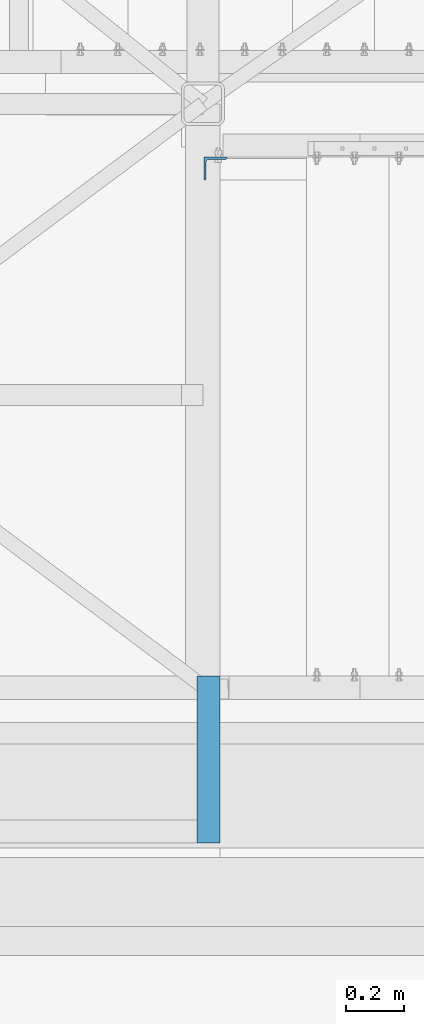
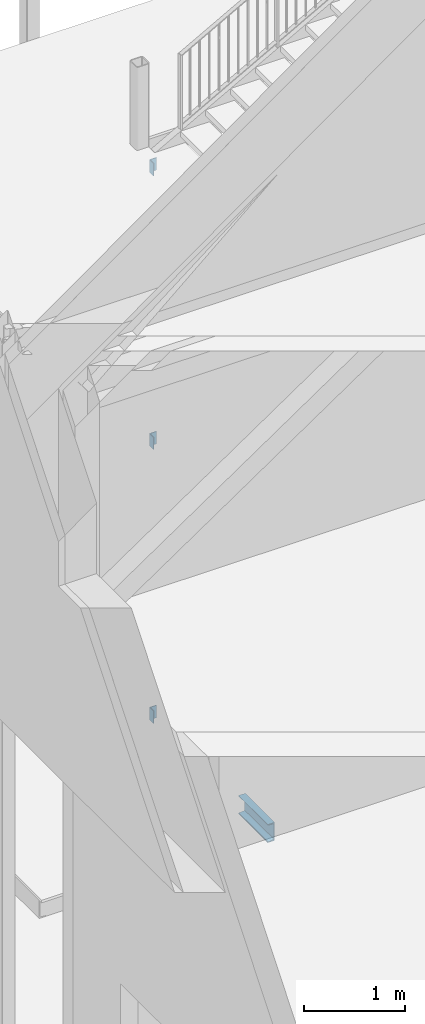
# One storey, part 49 of 78: 4 beams, 4 elements without a shape of their own.
"""IFC2X3 building model written with IfcOpenShell, lengths in millimetres."""

from ifc_helpers import new_model, si_unit, frame, origin_with_axes, origin_2d_with_axis, place, context, subcontext, project, spatial, l_section, u_section, extrude, material, type_object, element, aggregate, save


model = new_model("IFC2X3")

# Units and contexts
model_context = context("Model", 3, precision=1e-05, world=origin_with_axes())
body_context = subcontext(model_context, "Body", "Model", "MODEL_VIEW")
ifc_project = project(units=[si_unit("LENGTHUNIT", "METRE", prefix="MILLI"), si_unit("AREAUNIT", "SQUARE_METRE"), si_unit("VOLUMEUNIT", "CUBIC_METRE"), si_unit("MASSUNIT", "GRAM", prefix="KILO"), si_unit("TIMEUNIT", "SECOND"), si_unit("PLANEANGLEUNIT", "RADIAN"), si_unit("SOLIDANGLEUNIT", "STERADIAN"), si_unit("THERMODYNAMICTEMPERATUREUNIT", "DEGREE_CELSIUS"), si_unit("LUMINOUSINTENSITYUNIT", "LUMEN")], contexts=[model_context])

# Site, building, storey
site_placement = place(None, origin_with_axes())
site = spatial("IfcSite", under=ifc_project, at=site_placement, Name="Site", CompositionType="ELEMENT")
building_placement = place(site_placement, origin_with_axes())
building = spatial("IfcBuilding", under=site, at=building_placement, Name="Undefined", CompositionType="ELEMENT")
storey_placement = place(building_placement, origin_with_axes())
storey = spatial("IfcBuildingStorey", under=building, at=storey_placement, Name="Undefined", CompositionType="ELEMENT", Elevation=0.0)

# Assembly, beam
assembly_1_placement = place(storey_placement, origin_with_axes())
assembly_1 = element("IfcElementAssembly", 1, at=assembly_1_placement, inside=storey, Name="POUTRE", AssemblyPlace="NOTDEFINED", PredefinedType="RIGID_FRAME")
ifc_material_1 = material(Name="STEEL/S275JR")
beam_type_1 = type_object("IfcBeamType", Name="UPN220", PredefinedType="NOTDEFINED")
beam_1_placement = place(assembly_1_placement, frame((-4681.42999999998, 28185.0000000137, 149960.04), z_axis=(0.0, 0.0, -1.0), x_axis=(0.0, 1.0, 0.0)))
beam_1 = element("IfcBeam", 2, at=beam_1_placement, type_object=beam_type_1, material=ifc_material_1, Name="SOLIVE", ObjectType="UPN220", context=body_context, shape_type="SweptSolid", body=[
    extrude(u_section(Depth=220.0, FlangeWidth=80.0, WebThickness=9.0, FlangeThickness=12.5, FilletRadius=12.5, EdgeRadius=6.5, FlangeSlope=0.0798299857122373, at=origin_2d_with_axis()), frame((577.99999998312, 0.0, 0.0), z_axis=(-1.0, 0.0, 0.0), x_axis=(0.0, -1.0, 0.0)), (0.0, 0.0, 1.0), 578.0),
])
aggregate(assembly_1, [beam_1])

assembly_2_placement = place(storey_placement, origin_with_axes())
assembly_2 = element("IfcElementAssembly", 3, at=assembly_2_placement, inside=storey, Name="POUTRE", AssemblyPlace="NOTDEFINED", PredefinedType="RIGID_FRAME")
ifc_material_2 = material(Name="STEEL/S235JR")
beam_type_2 = type_object("IfcBeamType", Name="L80*8", PredefinedType="NOTDEFINED")
beam_2_placement = place(assembly_2_placement, frame((-4658.33000109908, 30522.9999998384, 150035.040000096), z_axis=(1.0, 0.0, 0.0), x_axis=(0.0, 0.0, -1.0)))
beam_2 = element("IfcBeam", 4, at=beam_2_placement, type_object=beam_type_2, material=ifc_material_2, Name="CORNIERE", ObjectType="L80*8", context=body_context, shape_type="SweptSolid", body=[
    extrude(l_section(Depth=80.0, Width=80.0, Thickness=8.0, FilletRadius=10.0, EdgeRadius=5.0, at=origin_2d_with_axis()), frame((150.0, 0.0, 0.0), z_axis=(-1.0, 0.0, 0.0), x_axis=(0.0, -1.0, 0.0)), (0.0, 0.0, 1.0), 150.0),
])
aggregate(assembly_2, [beam_2])

assembly_3_placement = place(storey_placement, origin_with_axes())
assembly_3 = element("IfcElementAssembly", 5, at=assembly_3_placement, inside=storey, Name="CONSOLE", AssemblyPlace="NOTDEFINED", PredefinedType="RIGID_FRAME")
beam_3_placement = place(assembly_3_placement, frame((-4658.33000103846, 30522.9999998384, 153335.040000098), z_axis=(1.0, 0.0, 0.0), x_axis=(0.0, 0.0, -1.0)))
beam_3 = element("IfcBeam", 6, at=beam_3_placement, type_object=beam_type_2, material=ifc_material_2, Name="CORNIERE", ObjectType="L80*8", context=body_context, shape_type="SweptSolid", body=[
    extrude(l_section(Depth=80.0, Width=80.0, Thickness=8.0, FilletRadius=10.0, EdgeRadius=5.0, at=origin_2d_with_axis()), frame((150.0, 0.0, 0.0), z_axis=(-1.0, 0.0, 0.0), x_axis=(0.0, -1.0, 0.0)), (0.0, 0.0, 1.0), 150.0),
])
aggregate(assembly_3, [beam_3])

assembly_4_placement = place(storey_placement, origin_with_axes())
assembly_4 = element("IfcElementAssembly", 7, at=assembly_4_placement, inside=storey, Name="CONSOLE", AssemblyPlace="NOTDEFINED", PredefinedType="RIGID_FRAME")
beam_4_placement = place(assembly_4_placement, frame((-4658.33000105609, 30522.9999998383, 156635.040000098), z_axis=(1.0, 0.0, 0.0), x_axis=(0.0, 0.0, -1.0)))
beam_4 = element("IfcBeam", 8, at=beam_4_placement, type_object=beam_type_2, material=ifc_material_2, Name="CORNIERE", ObjectType="L80*8", context=body_context, shape_type="SweptSolid", body=[
    extrude(l_section(Depth=80.0, Width=80.0, Thickness=8.0, FilletRadius=10.0, EdgeRadius=5.0, at=origin_2d_with_axis()), frame((150.0, 0.0, 0.0), z_axis=(-1.0, 0.0, 0.0), x_axis=(0.0, -1.0, 0.0)), (0.0, 0.0, 1.0), 150.0),
])
aggregate(assembly_4, [beam_4])

save(model, "model.ifc")
